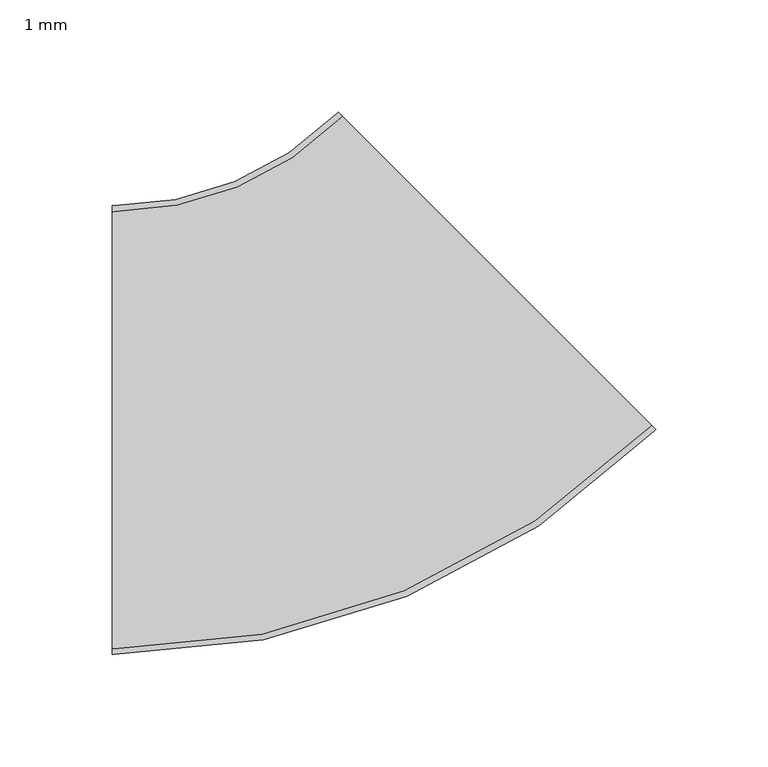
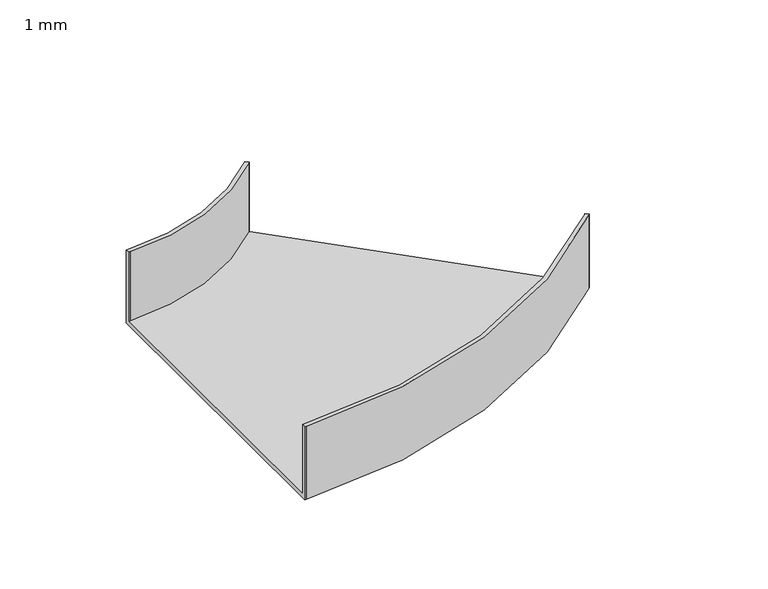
"""IFC4 building model written with IfcOpenShell, lengths in millimetres: cable carrier fitting geometry, BAKS_Kolano_koryta (R140) : 1 mm."""

from ifc_helpers import new_model, si_unit, frame, origin, place, context, project, spatial, polyline, circle_curve, source, transform, mapped, element, save
from ifc_brep_helpers import plane_surface, cylinder_surface, revolved_surface, advanced_brep


def cable_carrier_fitting_1_mm_2ed8489a(model_context):
    return source(origin(), model_context, "Body", "AdvancedBrep", [
        advanced_brep(
        [(-100.411255, -100.0, -25.0), (-100.411255, -100.0, 25.0), (-100.411255, -97.46, 25.0), (-100.411255, -97.46, -22.46), (-100.411255, 97.46, -22.46), (-100.411255, 97.46, 25.0), (-100.411255, 100.0, 25.0), (-100.411255, 100.0, -25.0), (141.7121574, 0.2908012, -25.0), (0.2908012, 141.7121574, -25.0), (0.2908012, 141.7121574, 25.0), (2.0868524, 139.9161062, 25.0), (2.0868524, 139.9161062, -22.46), (139.9161062, 2.0868524, -22.46), (139.9161062, 2.0868524, 25.0), (141.7121574, 0.2908012, 25.0), (-99.411255, -100.0, -25.0), (-99.411255, -100.0, 25.0), (141.0050506, -0.4163056, 25.0), (139.2089994, 1.3797456, 25.0), (-99.411255, -97.46, 25.0), (-99.411255, -97.46, -22.46), (139.2089994, 1.3797456, -22.46), (1.3797456, 139.2089994, -22.46), (-99.411255, 97.46, -22.46), (-99.411255, 97.46, 25.0), (1.3797456, 139.2089994, 25.0), (-0.4163056, 141.0050506, 25.0), (-99.411255, 100.0, 25.0), (-99.411255, 100.0, -25.0), (-0.4163056, 141.0050506, -25.0), (141.0050506, -0.4163056, -25.0)],
        [
            (0, 1),
            (1, 2),
            (2, 3),
            (3, 4),
            (4, 5),
            (5, 6),
            (6, 7),
            (7, 0),
            (8, 9),
            (9, 10),
            (10, 11),
            (11, 12),
            (12, 13),
            (13, 14),
            (14, 15),
            (15, 8),
            (0, 16),
            (16, 17),
            (17, 1),
            (17, 18, circle_curve(frame((-99.411255, 240.0, 25.0), z_axis=(0.0, 0.0, 1.0), x_axis=(0.0, -1.0, 0.0)), 340.0)),
            (18, 15),
            (14, 19),
            (19, 20, circle_curve(frame((-99.411255, 240.0, 25.0), z_axis=(0.0, 0.0, -1.0), x_axis=(0.0, -1.0, 0.0)), 337.46)),
            (20, 2),
            (20, 21),
            (21, 3),
            (21, 22, circle_curve(frame((-99.411255, 240.0, -22.46), z_axis=(0.0, 0.0, 1.0), x_axis=(0.0, -1.0, 0.0)), 337.46)),
            (22, 13),
            (12, 23),
            (23, 24, circle_curve(frame((-99.411255, 240.0, -22.46), z_axis=(0.0, 0.0, -1.0), x_axis=(0.0, -1.0, 0.0)), 142.54)),
            (24, 4),
            (24, 25),
            (25, 5),
            (25, 26, circle_curve(frame((-99.411255, 240.0, 25.0), z_axis=(0.0, 0.0, 1.0), x_axis=(0.0, -1.0, 0.0)), 142.54)),
            (26, 11),
            (10, 27),
            (27, 28, circle_curve(frame((-99.411255, 240.0, 25.0), z_axis=(0.0, 0.0, -1.0), x_axis=(0.0, -1.0, 0.0)), 140.0)),
            (28, 6),
            (28, 29),
            (29, 7),
            (29, 30, circle_curve(frame((-99.411255, 240.0, -25.0), z_axis=(0.0, 0.0, 1.0), x_axis=(0.0, -1.0, 0.0)), 140.0)),
            (30, 9),
            (8, 31),
            (31, 16, circle_curve(frame((-99.411255, 240.0, -25.0), z_axis=(0.0, 0.0, -1.0), x_axis=(0.0, -1.0, 0.0)), 340.0)),
            (31, 18),
            (19, 22),
            (23, 26),
            (27, 30),
        ],
        [
            plane_surface(frame((-100.411255, 0.0, 0.0), z_axis=(-1.0, -4.906741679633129e-12, 0.0), x_axis=(0.0, 0.0, 1.0))),
            plane_surface(frame((71.0014793, 71.0014793, 0.0), z_axis=(0.7071067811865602, 0.7071067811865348, 0.0), x_axis=(0.0, 0.0, 1.0))),
            plane_surface(frame((-100.411255, -100.0, -25.0), z_axis=(4.889821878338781e-12, -1.0, 0.0), x_axis=(1.0, 4.889821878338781e-12, 0.0))),
            plane_surface(frame((-100.411255, -100.0, 25.0), z_axis=(0.0, 0.0, 1.0), x_axis=(1.0, 4.889821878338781e-12, 0.0))),
            plane_surface(frame((-100.411255, -97.46, 25.0), z_axis=(-4.90674167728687e-12, 1.0, 0.0), x_axis=(1.0, 4.90674167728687e-12, 0.0))),
            plane_surface(frame((-100.411255, -97.46, -22.46), z_axis=(0.0, 0.0, 1.0), x_axis=(1.0, 4.923661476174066e-12, 0.0))),
            plane_surface(frame((-100.411255, 97.46, -22.46), z_axis=(4.906741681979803e-12, -1.0, 0.0), x_axis=(1.0, 4.906741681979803e-12, 0.0))),
            plane_surface(frame((-100.411255, 97.46, 25.0), z_axis=(0.0, 0.0, 1.0), x_axis=(1.0, 4.906741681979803e-12, 0.0))),
            plane_surface(frame((-100.411255, 100.0, 25.0), z_axis=(-4.906741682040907e-12, 1.0, 0.0), x_axis=(1.0, 4.906741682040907e-12, 0.0))),
            plane_surface(frame((-100.411255, 100.0, -25.0), z_axis=(0.0, 0.0, -1.0), x_axis=(1.0, 4.906741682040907e-12, 0.0))),
            cylinder_surface(frame((-99.411255, 240.0, 0.0), z_axis=(0.0, 0.0, 1.0), x_axis=(0.0, -1.0, 0.0)), 340.0),
            revolved_surface(polyline([(-99.411255, -97.45999999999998, 25.0), (-99.411255, -97.45999999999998, -22.46)]), (-99.411255, 240.0, 0.0), (0.0, 0.0, 1.0)),
            cylinder_surface(frame((-99.411255, 240.0, 0.0), z_axis=(0.0, 0.0, 1.0), x_axis=(0.0, -1.0, 0.0)), 142.54),
            revolved_surface(polyline([(-99.411255, 100.0, 25.0), (-99.411255, 100.0, -25.0)]), (-99.411255, 240.0, 0.0), (0.0, 0.0, 1.0)),
            plane_surface(frame((141.0050506, -0.4163056, -25.0), z_axis=(0.7071067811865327, -0.7071067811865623, 0.0), x_axis=(0.7071067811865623, 0.7071067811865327, 0.0))),
            plane_surface(frame((139.2089994, 1.3797456, 25.0), z_axis=(-0.7071067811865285, 0.7071067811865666, 0.0), x_axis=(0.7071067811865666, 0.7071067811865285, 0.0))),
            plane_surface(frame((1.3797456, 139.2089994, -22.46), z_axis=(0.7071067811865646, -0.7071067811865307, 0.0), x_axis=(0.7071067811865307, 0.7071067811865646, 0.0))),
            plane_surface(frame((-0.4163056, 141.0050506, 25.0), z_axis=(-0.7071067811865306, 0.7071067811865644, 0.0), x_axis=(0.7071067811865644, 0.7071067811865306, 0.0))),
        ],
        [
            (0, [[1, 2, 3, 4, 5, 6, 7, 8]]),
            (1, [[9, 10, 11, 12, 13, 14, 15, 16]]),
            (2, [[-1, 17, 18, 19]]),
            (3, [[-2, -19, 20, 21, -15, 22, 23, 24]]),
            (4, [[-3, -24, 25, 26]]),
            (5, [[-4, -26, 27, 28, -13, 29, 30, 31]]),
            (6, [[-5, -31, 32, 33]]),
            (7, [[-6, -33, 34, 35, -11, 36, 37, 38]]),
            (8, [[-7, -38, 39, 40]]),
            (9, [[-8, -40, 41, 42, -9, 43, 44, -17]]),
            (10, [[-20, -18, -44, 45]]),
            (11, [[-27, -25, -23, 46]]),
            (12, [[-34, -32, -30, 47]]),
            (13, [[-41, -39, -37, 48]]),
            (14, [[-45, -43, -16, -21]]),
            (15, [[-46, -22, -14, -28]]),
            (16, [[-47, -29, -12, -35]]),
            (17, [[-48, -36, -10, -42]]),
        ],
    ),
    ])


if __name__ == "__main__":
    model = new_model("IFC4")
    model_context = context("Model", 3, world=origin())
    ifc_project = project(units=[si_unit("LENGTHUNIT", "METRE", prefix="MILLI")], contexts=[model_context])
    site = spatial("IfcSite", under=ifc_project)
    building = spatial("IfcBuilding", under=site)
    placement = place(None, origin())
    cable_carrier_fitting_1_mm_shape = cable_carrier_fitting_1_mm_2ed8489a(model_context)
    element("IfcCableCarrierFitting", 1, ObjectType="BAKS_Kolano_koryta (R140) : 1 mm", at=placement, inside=building, context=model_context, shape_type="MappedRepresentation", body=[
        mapped(cable_carrier_fitting_1_mm_shape, transform((0.0, 0.0, 0.0), x_axis=(1.0, 0.0, 0.0), y_axis=(0.0, 1.0, 0.0), z_axis=(0.0, 0.0, 1.0))),
    ])
    save(model, "model.ifc")
